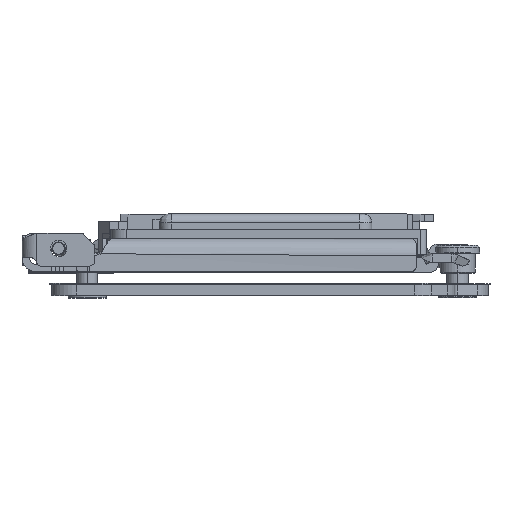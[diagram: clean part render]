
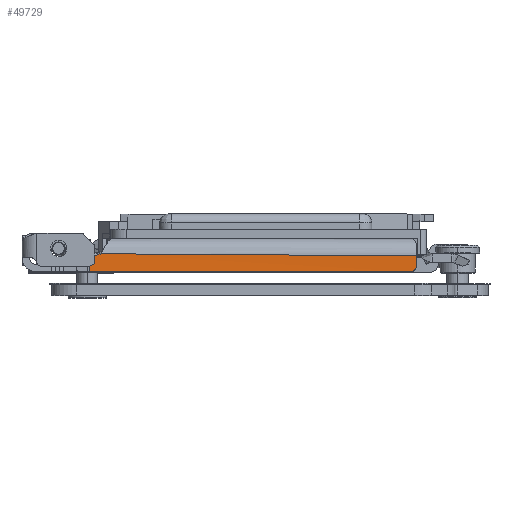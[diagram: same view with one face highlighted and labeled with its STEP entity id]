
A CAD part, top view. The second image highlights one B-rep face of the part: STEP entity #49729.
In plain terms, the highlighted planar face has unit normal (0, 0, 1).
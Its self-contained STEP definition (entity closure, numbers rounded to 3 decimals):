
#287 = DIRECTION ( 'NONE',  ( 0., -1., 0. ) ) ;
#2071 = CARTESIAN_POINT ( 'NONE',  ( 58.564, 1.359, 0. ) ) ;
#2726 = VERTEX_POINT ( 'NONE', #2071 ) ;
#2955 = CARTESIAN_POINT ( 'NONE',  ( 58.557, 1.212, 0. ) ) ;
#5378 = EDGE_CURVE ( 'NONE', #72251, #27453, #64350, .T. ) ;
#8762 = ORIENTED_EDGE ( 'NONE', *, *, #80756, .F. ) ;
#10498 = DIRECTION ( 'NONE',  ( 0., 1., 0. ) ) ;
#10983 = CARTESIAN_POINT ( 'NONE',  ( 58.082, 0.517, 0. ) ) ;
#13235 = CARTESIAN_POINT ( 'NONE',  ( 24.139, 3.24, 0. ) ) ;
#22333 = CARTESIAN_POINT ( 'NONE',  ( 3.599, 2.881, 0. ) ) ;
#24331 = CARTESIAN_POINT ( 'NONE',  ( 58.183, 0.587, 0. ) ) ;
#26037 = LINE ( 'NONE', #51190, #45278 ) ;
#27453 = VERTEX_POINT ( 'NONE', #83454 ) ;
#27759 = ORIENTED_EDGE ( 'NONE', *, *, #42413, .T. ) ;
#28686 = CARTESIAN_POINT ( 'NONE',  ( 31.121, 0.382, 0. ) ) ;
#31147 = CARTESIAN_POINT ( 'NONE',  ( 58.529, 1.092, 0. ) ) ;
#31620 = LINE ( 'NONE', #28686, #45488 ) ;
#34290 = CARTESIAN_POINT ( 'NONE',  ( 4.677, 2.782, 0. ) ) ;
#36792 = CARTESIAN_POINT ( 'NONE',  ( 57.854, 0.417, 0. ) ) ;
#39404 = ORIENTED_EDGE ( 'NONE', *, *, #5378, .T. ) ;
#39447 = LINE ( 'NONE', #42596, #55403 ) ;
#39852 = LINE ( 'NONE', #67389, #55810 ) ;
#40715 = AXIS2_PLACEMENT_3D ( 'NONE', #22333, #69814, #76639 ) ;
#42083 = DIRECTION ( 'NONE',  ( 1., 0., 0. ) ) ;
#42413 = EDGE_CURVE ( 'NONE', #60843, #42454, #31620, .T. ) ;
#42454 = VERTEX_POINT ( 'NONE', #49213 ) ;
#42596 = CARTESIAN_POINT ( 'NONE',  ( 5.402, 2.782, 0. ) ) ;
#43508 = EDGE_CURVE ( 'NONE', #76986, #60843, #39852, .T. ) ;
#43960 = CARTESIAN_POINT ( 'NONE',  ( 58.359, 0.763, 0. ) ) ;
#45278 = VECTOR ( 'NONE', #10498, 1000. ) ;
#45488 = VECTOR ( 'NONE', #42083, 1000. ) ;
#47685 = CARTESIAN_POINT ( 'NONE',  ( 58.564, 3.24, 0. ) ) ;
#49213 = CARTESIAN_POINT ( 'NONE',  ( 57.587, 0.383, 0. ) ) ;
#49382 = FACE_OUTER_BOUND ( 'NONE', #50814, .T. ) ;
#49729 = ADVANCED_FACE ( 'NONE', ( #49382 ), #62139, .T. ) ;
#50500 = CARTESIAN_POINT ( 'NONE',  ( 58.564, 1.359, 0. ) ) ;
#50803 = CARTESIAN_POINT ( 'NONE',  ( 57.587, 0.383, 0. ) ) ;
#50814 = EDGE_LOOP ( 'NONE', ( #58473, #39404, #8762, #60839, #27759, #69513 ) ) ;
#51190 = CARTESIAN_POINT ( 'NONE',  ( 58.564, 1.582, 0. ) ) ;
#55403 = VECTOR ( 'NONE', #82637, 1000. ) ;
#55810 = VECTOR ( 'NONE', #287, 1000. ) ;
#58473 = ORIENTED_EDGE ( 'NONE', *, *, #79113, .T. ) ;
#60839 = ORIENTED_EDGE ( 'NONE', *, *, #43508, .T. ) ;
#60843 = VERTEX_POINT ( 'NONE', #74037 ) ;
#60986 = CARTESIAN_POINT ( 'NONE',  ( 41.352, 3.24, 0. ) ) ;
#62139 = PLANE ( 'NONE',  #40715 ) ;
#63480 = CARTESIAN_POINT ( 'NONE',  ( 58.564, 3.011, -0.017 ) ) ;
#64036 = B_SPLINE_CURVE_WITH_KNOTS ( 'NONE', 3,
 ( #50803, #84883, #36792, #10983, #24331, #43960, #71824, #31147, #2955, #50500 ),
 .UNSPECIFIED., .F., .F.,
 ( 4, 2, 2, 2, 4 ),
 ( 0., 0.25, 0.5, 0.75, 1. ),
 .UNSPECIFIED. ) ;
#64350 = B_SPLINE_CURVE_WITH_KNOTS ( 'NONE', 3,
 ( #47685, #60986, #13235, #67800 ),
 .UNSPECIFIED., .F., .F.,
 ( 4, 4 ),
 ( 0., 1. ),
 .UNSPECIFIED. ) ;
#67389 = CARTESIAN_POINT ( 'NONE',  ( 4.677, 1.582, 0. ) ) ;
#67800 = CARTESIAN_POINT ( 'NONE',  ( 6.927, 3.24, 0. ) ) ;
#69513 = ORIENTED_EDGE ( 'NONE', *, *, #79742, .T. ) ;
#69814 = DIRECTION ( 'NONE',  ( 0., 0., 1. ) ) ;
#71824 = CARTESIAN_POINT ( 'NONE',  ( 58.429, 0.865, 0. ) ) ;
#72251 = VERTEX_POINT ( 'NONE', #63480 ) ;
#74037 = CARTESIAN_POINT ( 'NONE',  ( 4.677, 0.382, 0. ) ) ;
#76639 = DIRECTION ( 'NONE',  ( 0., -1., 0. ) ) ;
#76986 = VERTEX_POINT ( 'NONE', #34290 ) ;
#79113 = EDGE_CURVE ( 'NONE', #2726, #72251, #26037, .T. ) ;
#79742 = EDGE_CURVE ( 'NONE', #42454, #2726, #64036, .T. ) ;
#80756 = EDGE_CURVE ( 'NONE', #76986, #27453, #39447, .T. ) ;
#82637 = DIRECTION ( 'NONE',  ( 1., 0., 0. ) ) ;
#83454 = CARTESIAN_POINT ( 'NONE',  ( 6.621, 3.349, -0.115 ) ) ;
#84883 = CARTESIAN_POINT ( 'NONE',  ( 57.734, 0.389, 0. ) ) ;
